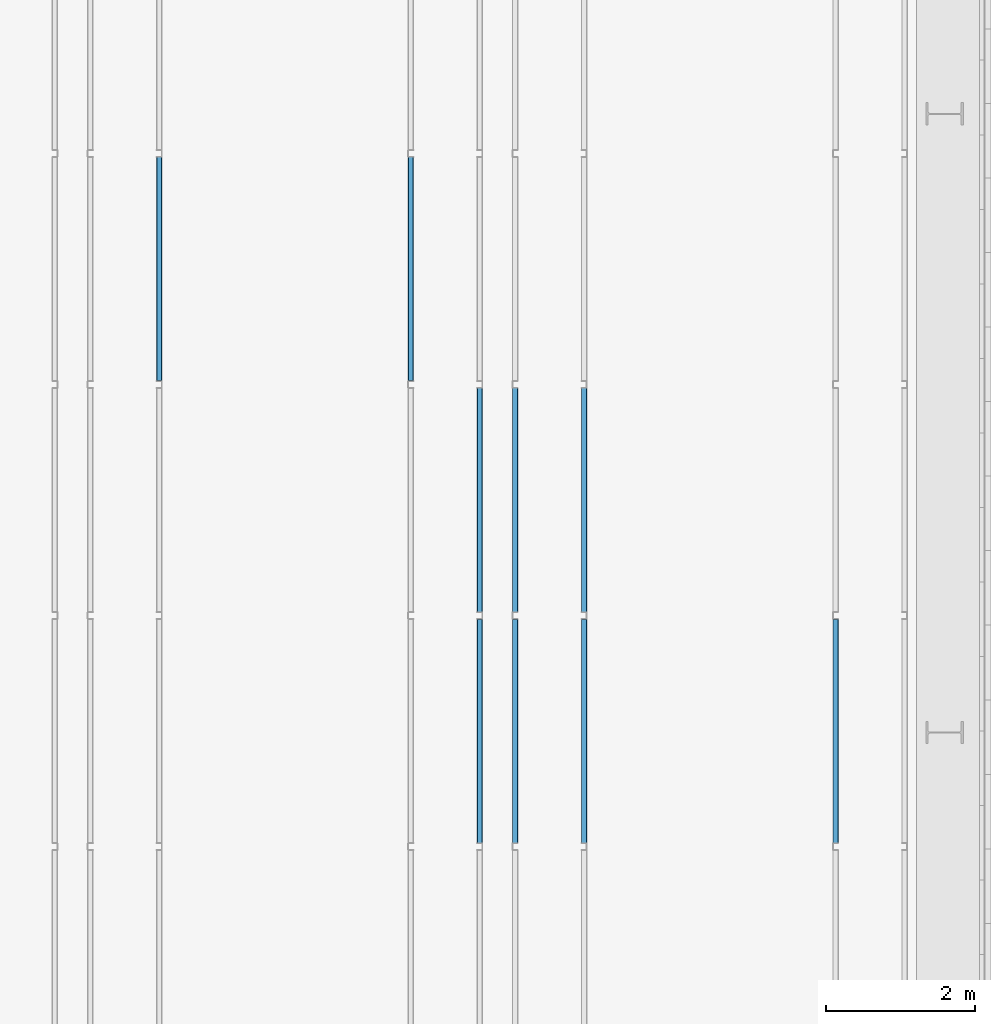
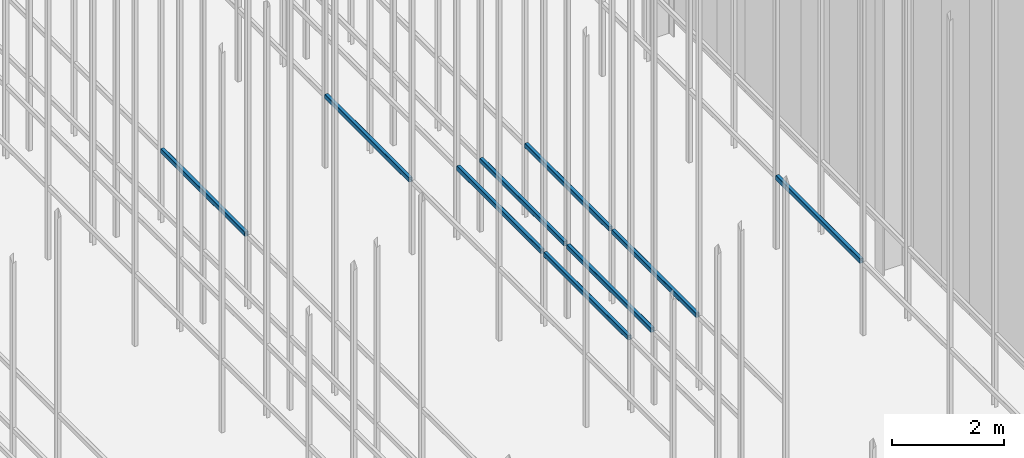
# One storey, part 149 of 302: 9 beams.
"""IFC2X3 building model written with IfcOpenShell, lengths in metres."""

from ifc_helpers import new_model, entity, si_unit, converted_unit, derived_unit, direction, frame, frame_2d, origin, place, context, subcontext, project, spatial, polyline, circle_curve, parameter, trimmed, segment, composite_curve, outline, extrude, material, type_object, element, save


model = new_model("IFC2X3")

# Units and contexts
model_context = context("Model", 3, precision=1e-05, world=origin(), true_north=direction((6.12303176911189e-17, 1.0)))
body_context = subcontext(model_context, "Body", "Model", "MODEL_VIEW")
ifc_project = project(units=[si_unit("LENGTHUNIT", "METRE"), si_unit("AREAUNIT", "SQUARE_METRE"), si_unit("VOLUMEUNIT", "CUBIC_METRE"), converted_unit("PLANEANGLEUNIT", "DEGREE", entity("IfcRatioMeasure", 0.0174532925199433), si_unit("PLANEANGLEUNIT", "RADIAN"), dimensions=[0, 0, 0, 0, 0, 0, 0]), si_unit("MASSUNIT", "GRAM", prefix="KILO"), derived_unit("MASSDENSITYUNIT", [(si_unit("MASSUNIT", "GRAM", prefix="KILO"), 1), (si_unit("LENGTHUNIT", "METRE"), -3)]), derived_unit("MOMENTOFINERTIAUNIT", [(si_unit("LENGTHUNIT", "METRE"), 4)]), si_unit("TIMEUNIT", "SECOND"), si_unit("FREQUENCYUNIT", "HERTZ"), si_unit("THERMODYNAMICTEMPERATUREUNIT", "DEGREE_CELSIUS"), derived_unit("THERMALTRANSMITTANCEUNIT", [(si_unit("MASSUNIT", "GRAM", prefix="KILO"), 1), (si_unit("THERMODYNAMICTEMPERATUREUNIT", "KELVIN"), -1), (si_unit("TIMEUNIT", "SECOND"), -3)]), derived_unit("VOLUMETRICFLOWRATEUNIT", [(si_unit("LENGTHUNIT", "METRE"), 3), (si_unit("TIMEUNIT", "SECOND"), -1)]), si_unit("ELECTRICCURRENTUNIT", "AMPERE"), si_unit("ELECTRICVOLTAGEUNIT", "VOLT"), si_unit("POWERUNIT", "WATT"), si_unit("FORCEUNIT", "NEWTON", prefix="KILO"), si_unit("ILLUMINANCEUNIT", "LUX"), si_unit("LUMINOUSFLUXUNIT", "LUMEN"), si_unit("LUMINOUSINTENSITYUNIT", "CANDELA"), derived_unit("USERDEFINED", [(si_unit("MASSUNIT", "GRAM", prefix="KILO"), -1), (si_unit("LENGTHUNIT", "METRE"), -2), (si_unit("TIMEUNIT", "SECOND"), 3), (si_unit("LUMINOUSFLUXUNIT", "LUMEN"), 1)]), derived_unit("LINEARVELOCITYUNIT", [(si_unit("LENGTHUNIT", "METRE"), 1), (si_unit("TIMEUNIT", "SECOND"), -1)]), si_unit("PRESSUREUNIT", "PASCAL"), derived_unit("USERDEFINED", [(si_unit("LENGTHUNIT", "METRE"), -2), (si_unit("MASSUNIT", "GRAM", prefix="KILO"), 1), (si_unit("TIMEUNIT", "SECOND"), -2)]), derived_unit("LINEARFORCEUNIT", [(si_unit("MASSUNIT", "GRAM", prefix="KILO"), 1), (si_unit("LENGTHUNIT", "METRE"), 1), (si_unit("TIMEUNIT", "SECOND"), -2), (si_unit("LENGTHUNIT", "METRE"), -1)]), derived_unit("PLANARFORCEUNIT", [(si_unit("MASSUNIT", "GRAM", prefix="KILO"), 1), (si_unit("LENGTHUNIT", "METRE"), 1), (si_unit("TIMEUNIT", "SECOND"), -2), (si_unit("LENGTHUNIT", "METRE"), -2)])], contexts=[model_context])

# Site, building, storey
site_placement = place(None, origin())
site = spatial("IfcSite", under=ifc_project, at=site_placement, Name="Default", CompositionType="ELEMENT")
building_placement = place(site_placement, origin())
building = spatial("IfcBuilding", under=site, at=building_placement, CompositionType="ELEMENT")
storey_placement = place(building_placement, frame((0.0, 0.0, -1.3)))
storey = spatial("IfcBuildingStorey", under=building, at=storey_placement, Name="00_EG", CompositionType="ELEMENT", Elevation=-1.3)

# Beams
ifc_material = material(Name="Metall - Baustahl S235 blau")
beam_type = type_object("IfcBeamType", Name="RHS Träger (EN 10219-2):RHS 100 x 75 x 5", PredefinedType="NOTDEFINED")
beam_1_placement = place(storey_placement, frame((-184.165111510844, 30.248088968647, 2.885), z_axis=(0.0, 0.0, 1.0), x_axis=(0.0, 1.0, 0.0)))
element("IfcBeam", 1, at=beam_1_placement, inside=storey, type_object=beam_type, material=ifc_material, Name="RHS Träger (EN 10219-2):RHS 100 x 75 x 5", ObjectType="RHS Träger (EN 10219-2):RHS 100 x 75 x 5", context=body_context, shape_type="SweptSolid", body=[
    extrude(outline(composite_curve([segment(polyline([(-0.0399999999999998, -0.0374999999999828), (0.0400000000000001, -0.0374999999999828)]), True, "CONTINUOUS"), segment(trimmed(circle_curve(frame_2d((0.0399999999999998, -0.0274999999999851), x_axis=(0.0, 1.0)), 0.01), [parameter(180.0)], [parameter(270.0)], True, "PARAMETER"), True, "CONTINUOUS"), segment(polyline([(0.05, -0.0274999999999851), (0.05, 0.0274999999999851)]), True, "CONTINUOUS"), segment(trimmed(circle_curve(frame_2d((0.0399999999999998, 0.0274999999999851), x_axis=(0.0, 1.0)), 0.01), [parameter(270.0)], [parameter(4.07110999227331e-13)], True, "PARAMETER"), True, "CONTINUOUS"), segment(polyline([(0.0400000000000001, 0.0375000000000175), (-0.0399999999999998, 0.0375000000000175)]), True, "CONTINUOUS"), segment(trimmed(circle_curve(frame_2d((-0.0400000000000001, 0.0274999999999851), x_axis=(0.0, 1.0)), 0.01), [parameter(360.0)], [parameter(90.0000000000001)], True, "PARAMETER"), True, "CONTINUOUS"), segment(polyline([(-0.05, 0.0274999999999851), (-0.05, -0.0274999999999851)]), True, "CONTINUOUS"), segment(trimmed(circle_curve(frame_2d((-0.0400000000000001, -0.0274999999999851), x_axis=(0.0, 1.0)), 0.01), [parameter(90.0000000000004)], [parameter(180.0)], True, "PARAMETER"), True, "CONTINUOUS")], self_intersect=False), holes=[composite_curve([segment(trimmed(circle_curve(frame_2d((-0.0400000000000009, 0.0274999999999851), x_axis=(0.0, 1.0)), 0.005), [parameter(360.0)], [parameter(89.9999999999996)], True, "PARAMETER"), False, "CONTINUOUS"), segment(polyline([(-0.0400000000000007, 0.0325000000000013), (0.0399999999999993, 0.0325000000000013)]), True, "CONTINUOUS"), segment(trimmed(circle_curve(frame_2d((0.039999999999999, 0.0274999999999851), x_axis=(0.0, 1.0)), 0.005), [parameter(270.0)], [parameter(0.0)], True, "PARAMETER"), False, "CONTINUOUS"), segment(polyline([(0.0449999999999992, 0.0274999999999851), (0.0449999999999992, -0.0274999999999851)]), True, "CONTINUOUS"), segment(trimmed(circle_curve(frame_2d((0.039999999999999, -0.0274999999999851), x_axis=(0.0, 1.0)), 0.005), [parameter(180.0)], [parameter(269.999999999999)], True, "PARAMETER"), False, "CONTINUOUS"), segment(polyline([(0.0399999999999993, -0.0325000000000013), (-0.0400000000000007, -0.0325000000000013)]), True, "CONTINUOUS"), segment(trimmed(circle_curve(frame_2d((-0.0400000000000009, -0.0274999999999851), x_axis=(0.0, 1.0)), 0.005), [parameter(90.0000000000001)], [parameter(180.0)], True, "PARAMETER"), False, "CONTINUOUS"), segment(polyline([(-0.0450000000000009, -0.0274999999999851), (-0.0450000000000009, 0.0274999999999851)]), True, "CONTINUOUS")], self_intersect=False)]), frame((9.99999999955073e-05, -0.0375000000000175, -0.0500000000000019), z_axis=(1.0, 0.0, 0.0), x_axis=(0.0, 0.0, -1.0)), (0.0, 0.0, 1.0), 2.9998),
])
beam_2_placement = place(storey_placement, frame((-183.615111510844, 30.248088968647, 2.885), z_axis=(0.0, 0.0, 1.0), x_axis=(0.0, 1.0, 0.0)))
element("IfcBeam", 2, at=beam_2_placement, inside=storey, type_object=beam_type, material=ifc_material, Name="RHS Träger (EN 10219-2):RHS 100 x 75 x 5", ObjectType="RHS Träger (EN 10219-2):RHS 100 x 75 x 5", context=body_context, shape_type="SweptSolid", body=[
    extrude(outline(composite_curve([segment(trimmed(circle_curve(frame_2d((-0.0274999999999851, -0.0400000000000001), x_axis=(1.0, 0.0)), 0.01), [parameter(180.0)], [parameter(270.0)], True, "PARAMETER"), True, "CONTINUOUS"), segment(polyline([(-0.0274999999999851, -0.05), (0.0274999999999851, -0.05)]), True, "CONTINUOUS"), segment(trimmed(circle_curve(frame_2d((0.0274999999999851, -0.0400000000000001), x_axis=(1.0, 0.0)), 0.01), [parameter(270.0)], [parameter(5.08888749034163e-14)], True, "PARAMETER"), True, "CONTINUOUS"), segment(polyline([(0.0375000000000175, -0.0399999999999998), (0.0375000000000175, 0.0400000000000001)]), True, "CONTINUOUS"), segment(trimmed(circle_curve(frame_2d((0.0274999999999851, 0.0399999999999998), x_axis=(1.0, 0.0)), 0.01), [parameter(360.0)], [parameter(89.9999999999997)], True, "PARAMETER"), True, "CONTINUOUS"), segment(polyline([(0.0274999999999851, 0.05), (-0.0274999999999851, 0.05)]), True, "CONTINUOUS"), segment(trimmed(circle_curve(frame_2d((-0.0274999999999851, 0.0399999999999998), x_axis=(1.0, 0.0)), 0.01), [parameter(90.0000000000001)], [parameter(180.0)], True, "PARAMETER"), True, "CONTINUOUS"), segment(polyline([(-0.0374999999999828, 0.0400000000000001), (-0.0374999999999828, -0.0399999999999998)]), True, "CONTINUOUS")], self_intersect=False), holes=[composite_curve([segment(polyline([(0.0274999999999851, -0.0450000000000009), (-0.0274999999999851, -0.0450000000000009)]), True, "CONTINUOUS"), segment(trimmed(circle_curve(frame_2d((-0.0274999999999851, -0.0400000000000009), x_axis=(1.0, 0.0)), 0.005), [parameter(180.0)], [parameter(270.0)], True, "PARAMETER"), False, "CONTINUOUS"), segment(polyline([(-0.0325000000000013, -0.0400000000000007), (-0.0325000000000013, 0.0399999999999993)]), True, "CONTINUOUS"), segment(trimmed(circle_curve(frame_2d((-0.0274999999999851, 0.039999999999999), x_axis=(1.0, 0.0)), 0.005), [parameter(90.0000000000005)], [parameter(180.0)], True, "PARAMETER"), False, "CONTINUOUS"), segment(polyline([(-0.0274999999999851, 0.0449999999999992), (0.0274999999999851, 0.0449999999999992)]), True, "CONTINUOUS"), segment(trimmed(circle_curve(frame_2d((0.0274999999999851, 0.039999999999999), x_axis=(1.0, 0.0)), 0.005), [parameter(0.0)], [parameter(90.0000000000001)], True, "PARAMETER"), False, "CONTINUOUS"), segment(polyline([(0.0325000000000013, 0.0399999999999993), (0.0325000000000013, -0.0400000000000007)]), True, "CONTINUOUS"), segment(trimmed(circle_curve(frame_2d((0.0274999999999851, -0.0400000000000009), x_axis=(1.0, 0.0)), 0.005), [parameter(270.0)], [parameter(4.07110999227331e-13)], True, "PARAMETER"), False, "CONTINUOUS")], self_intersect=False)]), frame((9.99999999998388e-05, 0.0375000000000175, -0.0500000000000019), z_axis=(1.0, 0.0, 0.0), x_axis=(0.0, -1.0, 0.0)), (0.0, 0.0, 1.0), 2.9998),
])
beam_3_placement = place(storey_placement, frame((-182.765111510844, 30.248088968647, 2.885), z_axis=(0.0, 0.0, 1.0), x_axis=(0.0, 1.0, 0.0)))
element("IfcBeam", 3, at=beam_3_placement, inside=storey, type_object=beam_type, material=ifc_material, Name="RHS Träger (EN 10219-2):RHS 100 x 75 x 5", ObjectType="RHS Träger (EN 10219-2):RHS 100 x 75 x 5", context=body_context, shape_type="SweptSolid", body=[
    extrude(outline(composite_curve([segment(polyline([(-0.0399999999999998, -0.0374999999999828), (0.0400000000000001, -0.0374999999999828)]), True, "CONTINUOUS"), segment(trimmed(circle_curve(frame_2d((0.0399999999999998, -0.0274999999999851), x_axis=(0.0, 1.0)), 0.01), [parameter(180.0)], [parameter(270.0)], True, "PARAMETER"), True, "CONTINUOUS"), segment(polyline([(0.05, -0.0274999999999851), (0.05, 0.0274999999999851)]), True, "CONTINUOUS"), segment(trimmed(circle_curve(frame_2d((0.0399999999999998, 0.0274999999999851), x_axis=(0.0, 1.0)), 0.01), [parameter(270.0)], [parameter(4.07110999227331e-13)], True, "PARAMETER"), True, "CONTINUOUS"), segment(polyline([(0.0400000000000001, 0.0375000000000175), (-0.0399999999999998, 0.0375000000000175)]), True, "CONTINUOUS"), segment(trimmed(circle_curve(frame_2d((-0.0400000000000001, 0.0274999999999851), x_axis=(0.0, 1.0)), 0.01), [parameter(360.0)], [parameter(90.0000000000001)], True, "PARAMETER"), True, "CONTINUOUS"), segment(polyline([(-0.05, 0.0274999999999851), (-0.05, -0.0274999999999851)]), True, "CONTINUOUS"), segment(trimmed(circle_curve(frame_2d((-0.0400000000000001, -0.0274999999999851), x_axis=(0.0, 1.0)), 0.01), [parameter(90.0000000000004)], [parameter(180.0)], True, "PARAMETER"), True, "CONTINUOUS")], self_intersect=False), holes=[composite_curve([segment(trimmed(circle_curve(frame_2d((-0.0400000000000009, 0.0274999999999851), x_axis=(0.0, 1.0)), 0.005), [parameter(360.0)], [parameter(89.9999999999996)], True, "PARAMETER"), False, "CONTINUOUS"), segment(polyline([(-0.0400000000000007, 0.0325000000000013), (0.0399999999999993, 0.0325000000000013)]), True, "CONTINUOUS"), segment(trimmed(circle_curve(frame_2d((0.039999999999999, 0.0274999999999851), x_axis=(0.0, 1.0)), 0.005), [parameter(270.0)], [parameter(0.0)], True, "PARAMETER"), False, "CONTINUOUS"), segment(polyline([(0.0449999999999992, 0.0274999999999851), (0.0449999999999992, -0.0274999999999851)]), True, "CONTINUOUS"), segment(trimmed(circle_curve(frame_2d((0.039999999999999, -0.0274999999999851), x_axis=(0.0, 1.0)), 0.005), [parameter(180.0)], [parameter(269.999999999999)], True, "PARAMETER"), False, "CONTINUOUS"), segment(polyline([(0.0399999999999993, -0.0325000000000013), (-0.0400000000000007, -0.0325000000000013)]), True, "CONTINUOUS"), segment(trimmed(circle_curve(frame_2d((-0.0400000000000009, -0.0274999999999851), x_axis=(0.0, 1.0)), 0.005), [parameter(90.0000000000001)], [parameter(180.0)], True, "PARAMETER"), False, "CONTINUOUS"), segment(polyline([(-0.0450000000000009, -0.0274999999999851), (-0.0450000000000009, 0.0274999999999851)]), True, "CONTINUOUS")], self_intersect=False)]), frame((9.99999999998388e-05, -0.0375000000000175, -0.0500000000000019), z_axis=(1.0, 0.0, 0.0), x_axis=(0.0, 0.0, -1.0)), (0.0, 0.0, 1.0), 2.9998),
])
beam_4_placement = place(storey_placement, frame((-179.315111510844, 30.248088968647, 2.885), z_axis=(0.0, 0.0, 1.0), x_axis=(0.0, 1.0, 0.0)))
element("IfcBeam", 4, at=beam_4_placement, inside=storey, type_object=beam_type, material=ifc_material, Name="RHS Träger (EN 10219-2):RHS 100 x 75 x 5", ObjectType="RHS Träger (EN 10219-2):RHS 100 x 75 x 5", context=body_context, shape_type="SweptSolid", body=[
    extrude(outline(composite_curve([segment(trimmed(circle_curve(frame_2d((-0.0274999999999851, -0.0400000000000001), x_axis=(1.0, 0.0)), 0.01), [parameter(180.0)], [parameter(270.0)], True, "PARAMETER"), True, "CONTINUOUS"), segment(polyline([(-0.0274999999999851, -0.05), (0.0274999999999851, -0.05)]), True, "CONTINUOUS"), segment(trimmed(circle_curve(frame_2d((0.0274999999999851, -0.0400000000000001), x_axis=(1.0, 0.0)), 0.01), [parameter(270.0)], [parameter(5.08888749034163e-14)], True, "PARAMETER"), True, "CONTINUOUS"), segment(polyline([(0.0375000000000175, -0.0399999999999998), (0.0375000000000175, 0.0400000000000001)]), True, "CONTINUOUS"), segment(trimmed(circle_curve(frame_2d((0.0274999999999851, 0.0399999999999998), x_axis=(1.0, 0.0)), 0.01), [parameter(360.0)], [parameter(89.9999999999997)], True, "PARAMETER"), True, "CONTINUOUS"), segment(polyline([(0.0274999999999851, 0.05), (-0.0274999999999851, 0.05)]), True, "CONTINUOUS"), segment(trimmed(circle_curve(frame_2d((-0.0274999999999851, 0.0399999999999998), x_axis=(1.0, 0.0)), 0.01), [parameter(90.0000000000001)], [parameter(180.0)], True, "PARAMETER"), True, "CONTINUOUS"), segment(polyline([(-0.0374999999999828, 0.0400000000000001), (-0.0374999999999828, -0.0399999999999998)]), True, "CONTINUOUS")], self_intersect=False), holes=[composite_curve([segment(polyline([(0.0274999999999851, -0.0450000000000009), (-0.0274999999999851, -0.0450000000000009)]), True, "CONTINUOUS"), segment(trimmed(circle_curve(frame_2d((-0.0274999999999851, -0.0400000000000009), x_axis=(1.0, 0.0)), 0.005), [parameter(180.0)], [parameter(270.0)], True, "PARAMETER"), False, "CONTINUOUS"), segment(polyline([(-0.0325000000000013, -0.0400000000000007), (-0.0325000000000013, 0.0399999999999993)]), True, "CONTINUOUS"), segment(trimmed(circle_curve(frame_2d((-0.0274999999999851, 0.039999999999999), x_axis=(1.0, 0.0)), 0.005), [parameter(90.0000000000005)], [parameter(180.0)], True, "PARAMETER"), False, "CONTINUOUS"), segment(polyline([(-0.0274999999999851, 0.0449999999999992), (0.0274999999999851, 0.0449999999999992)]), True, "CONTINUOUS"), segment(trimmed(circle_curve(frame_2d((0.0274999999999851, 0.039999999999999), x_axis=(1.0, 0.0)), 0.005), [parameter(0.0)], [parameter(90.0000000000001)], True, "PARAMETER"), False, "CONTINUOUS"), segment(polyline([(0.0325000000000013, 0.0399999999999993), (0.0325000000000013, -0.0400000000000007)]), True, "CONTINUOUS"), segment(trimmed(circle_curve(frame_2d((0.0274999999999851, -0.0400000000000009), x_axis=(1.0, 0.0)), 0.005), [parameter(270.0)], [parameter(4.07110999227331e-13)], True, "PARAMETER"), False, "CONTINUOUS")], self_intersect=False)]), frame((0.00010000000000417, 0.0375000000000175, -0.0500000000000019), z_axis=(1.0, 0.0, 0.0), x_axis=(0.0, -1.0, 0.0)), (0.0, 0.0, 1.0), 2.9998),
])
beam_5_placement = place(storey_placement, frame((-184.165111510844, 33.348088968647, 2.885), z_axis=(0.0, 0.0, 1.0), x_axis=(0.0, 1.0, 0.0)))
element("IfcBeam", 5, at=beam_5_placement, inside=storey, type_object=beam_type, material=ifc_material, Name="RHS Träger (EN 10219-2):RHS 100 x 75 x 5", ObjectType="RHS Träger (EN 10219-2):RHS 100 x 75 x 5", context=body_context, shape_type="SweptSolid", body=[
    extrude(outline(composite_curve([segment(polyline([(-0.0399999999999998, -0.0374999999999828), (0.0400000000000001, -0.0374999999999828)]), True, "CONTINUOUS"), segment(trimmed(circle_curve(frame_2d((0.0399999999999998, -0.0274999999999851), x_axis=(0.0, 1.0)), 0.01), [parameter(180.0)], [parameter(270.0)], True, "PARAMETER"), True, "CONTINUOUS"), segment(polyline([(0.05, -0.0274999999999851), (0.05, 0.0274999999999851)]), True, "CONTINUOUS"), segment(trimmed(circle_curve(frame_2d((0.0399999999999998, 0.0274999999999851), x_axis=(0.0, 1.0)), 0.01), [parameter(270.0)], [parameter(4.07110999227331e-13)], True, "PARAMETER"), True, "CONTINUOUS"), segment(polyline([(0.0400000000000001, 0.0375000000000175), (-0.0399999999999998, 0.0375000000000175)]), True, "CONTINUOUS"), segment(trimmed(circle_curve(frame_2d((-0.0400000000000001, 0.0274999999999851), x_axis=(0.0, 1.0)), 0.01), [parameter(360.0)], [parameter(90.0000000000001)], True, "PARAMETER"), True, "CONTINUOUS"), segment(polyline([(-0.05, 0.0274999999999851), (-0.05, -0.0274999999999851)]), True, "CONTINUOUS"), segment(trimmed(circle_curve(frame_2d((-0.0400000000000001, -0.0274999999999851), x_axis=(0.0, 1.0)), 0.01), [parameter(90.0000000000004)], [parameter(180.0)], True, "PARAMETER"), True, "CONTINUOUS")], self_intersect=False), holes=[composite_curve([segment(trimmed(circle_curve(frame_2d((-0.0400000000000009, 0.0274999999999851), x_axis=(0.0, 1.0)), 0.005), [parameter(360.0)], [parameter(89.9999999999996)], True, "PARAMETER"), False, "CONTINUOUS"), segment(polyline([(-0.0400000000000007, 0.0325000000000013), (0.0399999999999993, 0.0325000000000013)]), True, "CONTINUOUS"), segment(trimmed(circle_curve(frame_2d((0.039999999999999, 0.0274999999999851), x_axis=(0.0, 1.0)), 0.005), [parameter(270.0)], [parameter(0.0)], True, "PARAMETER"), False, "CONTINUOUS"), segment(polyline([(0.0449999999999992, 0.0274999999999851), (0.0449999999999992, -0.0274999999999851)]), True, "CONTINUOUS"), segment(trimmed(circle_curve(frame_2d((0.039999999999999, -0.0274999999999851), x_axis=(0.0, 1.0)), 0.005), [parameter(180.0)], [parameter(269.999999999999)], True, "PARAMETER"), False, "CONTINUOUS"), segment(polyline([(0.0399999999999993, -0.0325000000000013), (-0.0400000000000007, -0.0325000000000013)]), True, "CONTINUOUS"), segment(trimmed(circle_curve(frame_2d((-0.0400000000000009, -0.0274999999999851), x_axis=(0.0, 1.0)), 0.005), [parameter(90.0000000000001)], [parameter(180.0)], True, "PARAMETER"), False, "CONTINUOUS"), segment(polyline([(-0.0450000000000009, -0.0274999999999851), (-0.0450000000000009, 0.0274999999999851)]), True, "CONTINUOUS")], self_intersect=False)]), frame((9.99999999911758e-05, -0.0375000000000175, -0.0500000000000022), z_axis=(1.0, 0.0, 0.0), x_axis=(0.0, 0.0, -1.0)), (0.0, 0.0, 1.0), 2.9998),
])
beam_6_placement = place(storey_placement, frame((-183.615111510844, 33.348088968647, 2.885), z_axis=(0.0, 0.0, 1.0), x_axis=(0.0, 1.0, 0.0)))
element("IfcBeam", 6, at=beam_6_placement, inside=storey, type_object=beam_type, material=ifc_material, Name="RHS Träger (EN 10219-2):RHS 100 x 75 x 5", ObjectType="RHS Träger (EN 10219-2):RHS 100 x 75 x 5", context=body_context, shape_type="SweptSolid", body=[
    extrude(outline(composite_curve([segment(trimmed(circle_curve(frame_2d((-0.0274999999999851, -0.0400000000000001), x_axis=(1.0, 0.0)), 0.01), [parameter(180.0)], [parameter(270.0)], True, "PARAMETER"), True, "CONTINUOUS"), segment(polyline([(-0.0274999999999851, -0.05), (0.0274999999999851, -0.05)]), True, "CONTINUOUS"), segment(trimmed(circle_curve(frame_2d((0.0274999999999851, -0.0400000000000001), x_axis=(1.0, 0.0)), 0.01), [parameter(270.0)], [parameter(5.08888749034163e-14)], True, "PARAMETER"), True, "CONTINUOUS"), segment(polyline([(0.0375000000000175, -0.0399999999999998), (0.0375000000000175, 0.0400000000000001)]), True, "CONTINUOUS"), segment(trimmed(circle_curve(frame_2d((0.0274999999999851, 0.0399999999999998), x_axis=(1.0, 0.0)), 0.01), [parameter(360.0)], [parameter(89.9999999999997)], True, "PARAMETER"), True, "CONTINUOUS"), segment(polyline([(0.0274999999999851, 0.05), (-0.0274999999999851, 0.05)]), True, "CONTINUOUS"), segment(trimmed(circle_curve(frame_2d((-0.0274999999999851, 0.0399999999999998), x_axis=(1.0, 0.0)), 0.01), [parameter(90.0000000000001)], [parameter(180.0)], True, "PARAMETER"), True, "CONTINUOUS"), segment(polyline([(-0.0374999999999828, 0.0400000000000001), (-0.0374999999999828, -0.0399999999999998)]), True, "CONTINUOUS")], self_intersect=False), holes=[composite_curve([segment(polyline([(0.0274999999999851, -0.0450000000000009), (-0.0274999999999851, -0.0450000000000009)]), True, "CONTINUOUS"), segment(trimmed(circle_curve(frame_2d((-0.0274999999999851, -0.0400000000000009), x_axis=(1.0, 0.0)), 0.005), [parameter(180.0)], [parameter(270.0)], True, "PARAMETER"), False, "CONTINUOUS"), segment(polyline([(-0.0325000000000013, -0.0400000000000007), (-0.0325000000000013, 0.0399999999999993)]), True, "CONTINUOUS"), segment(trimmed(circle_curve(frame_2d((-0.0274999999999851, 0.039999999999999), x_axis=(1.0, 0.0)), 0.005), [parameter(90.0000000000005)], [parameter(180.0)], True, "PARAMETER"), False, "CONTINUOUS"), segment(polyline([(-0.0274999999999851, 0.0449999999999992), (0.0274999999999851, 0.0449999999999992)]), True, "CONTINUOUS"), segment(trimmed(circle_curve(frame_2d((0.0274999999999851, 0.039999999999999), x_axis=(1.0, 0.0)), 0.005), [parameter(0.0)], [parameter(90.0000000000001)], True, "PARAMETER"), False, "CONTINUOUS"), segment(polyline([(0.0325000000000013, 0.0399999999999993), (0.0325000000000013, -0.0400000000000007)]), True, "CONTINUOUS"), segment(trimmed(circle_curve(frame_2d((0.0274999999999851, -0.0400000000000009), x_axis=(1.0, 0.0)), 0.005), [parameter(270.0)], [parameter(4.07110999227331e-13)], True, "PARAMETER"), False, "CONTINUOUS")], self_intersect=False)]), frame((9.99999999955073e-05, 0.0375000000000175, -0.0500000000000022), z_axis=(1.0, 0.0, 0.0), x_axis=(0.0, -1.0, 0.0)), (0.0, 0.0, 1.0), 2.9998),
])
beam_7_placement = place(storey_placement, frame((-182.765111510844, 33.348088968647, 2.885), z_axis=(0.0, 0.0, 1.0), x_axis=(0.0, 1.0, 0.0)))
element("IfcBeam", 7, at=beam_7_placement, inside=storey, type_object=beam_type, material=ifc_material, Name="RHS Träger (EN 10219-2):RHS 100 x 75 x 5", ObjectType="RHS Träger (EN 10219-2):RHS 100 x 75 x 5", context=body_context, shape_type="SweptSolid", body=[
    extrude(outline(composite_curve([segment(polyline([(-0.0399999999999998, -0.0374999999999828), (0.0400000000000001, -0.0374999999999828)]), True, "CONTINUOUS"), segment(trimmed(circle_curve(frame_2d((0.0399999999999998, -0.0274999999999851), x_axis=(0.0, 1.0)), 0.01), [parameter(180.0)], [parameter(270.0)], True, "PARAMETER"), True, "CONTINUOUS"), segment(polyline([(0.05, -0.0274999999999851), (0.05, 0.0274999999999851)]), True, "CONTINUOUS"), segment(trimmed(circle_curve(frame_2d((0.0399999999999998, 0.0274999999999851), x_axis=(0.0, 1.0)), 0.01), [parameter(270.0)], [parameter(4.07110999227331e-13)], True, "PARAMETER"), True, "CONTINUOUS"), segment(polyline([(0.0400000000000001, 0.0375000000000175), (-0.0399999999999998, 0.0375000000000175)]), True, "CONTINUOUS"), segment(trimmed(circle_curve(frame_2d((-0.0400000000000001, 0.0274999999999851), x_axis=(0.0, 1.0)), 0.01), [parameter(360.0)], [parameter(90.0000000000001)], True, "PARAMETER"), True, "CONTINUOUS"), segment(polyline([(-0.05, 0.0274999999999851), (-0.05, -0.0274999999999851)]), True, "CONTINUOUS"), segment(trimmed(circle_curve(frame_2d((-0.0400000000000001, -0.0274999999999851), x_axis=(0.0, 1.0)), 0.01), [parameter(90.0000000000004)], [parameter(180.0)], True, "PARAMETER"), True, "CONTINUOUS")], self_intersect=False), holes=[composite_curve([segment(trimmed(circle_curve(frame_2d((-0.0400000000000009, 0.0274999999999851), x_axis=(0.0, 1.0)), 0.005), [parameter(360.0)], [parameter(89.9999999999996)], True, "PARAMETER"), False, "CONTINUOUS"), segment(polyline([(-0.0400000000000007, 0.0325000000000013), (0.0399999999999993, 0.0325000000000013)]), True, "CONTINUOUS"), segment(trimmed(circle_curve(frame_2d((0.039999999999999, 0.0274999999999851), x_axis=(0.0, 1.0)), 0.005), [parameter(270.0)], [parameter(0.0)], True, "PARAMETER"), False, "CONTINUOUS"), segment(polyline([(0.0449999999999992, 0.0274999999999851), (0.0449999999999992, -0.0274999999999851)]), True, "CONTINUOUS"), segment(trimmed(circle_curve(frame_2d((0.039999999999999, -0.0274999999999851), x_axis=(0.0, 1.0)), 0.005), [parameter(180.0)], [parameter(269.999999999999)], True, "PARAMETER"), False, "CONTINUOUS"), segment(polyline([(0.0399999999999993, -0.0325000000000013), (-0.0400000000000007, -0.0325000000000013)]), True, "CONTINUOUS"), segment(trimmed(circle_curve(frame_2d((-0.0400000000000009, -0.0274999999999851), x_axis=(0.0, 1.0)), 0.005), [parameter(90.0000000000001)], [parameter(180.0)], True, "PARAMETER"), False, "CONTINUOUS"), segment(polyline([(-0.0450000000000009, -0.0274999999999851), (-0.0450000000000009, 0.0274999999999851)]), True, "CONTINUOUS")], self_intersect=False)]), frame((9.99999999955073e-05, -0.0375000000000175, -0.0500000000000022), z_axis=(1.0, 0.0, 0.0), x_axis=(0.0, 0.0, -1.0)), (0.0, 0.0, 1.0), 2.9998),
])
beam_8_placement = place(storey_placement, frame((-188.465111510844, 36.448088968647, 2.885), z_axis=(0.0, 0.0, 1.0), x_axis=(0.0, 1.0, 0.0)))
element("IfcBeam", 8, at=beam_8_placement, inside=storey, type_object=beam_type, material=ifc_material, Name="RHS Träger (EN 10219-2):RHS 100 x 75 x 5", ObjectType="RHS Träger (EN 10219-2):RHS 100 x 75 x 5", context=body_context, shape_type="SweptSolid", body=[
    extrude(outline(composite_curve([segment(polyline([(-0.0399999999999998, -0.0374999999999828), (0.0400000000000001, -0.0374999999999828)]), True, "CONTINUOUS"), segment(trimmed(circle_curve(frame_2d((0.0399999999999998, -0.0274999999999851), x_axis=(0.0, 1.0)), 0.01), [parameter(180.0)], [parameter(270.0)], True, "PARAMETER"), True, "CONTINUOUS"), segment(polyline([(0.05, -0.0274999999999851), (0.05, 0.0274999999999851)]), True, "CONTINUOUS"), segment(trimmed(circle_curve(frame_2d((0.0399999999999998, 0.0274999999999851), x_axis=(0.0, 1.0)), 0.01), [parameter(270.0)], [parameter(4.07110999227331e-13)], True, "PARAMETER"), True, "CONTINUOUS"), segment(polyline([(0.0400000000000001, 0.0375000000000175), (-0.0399999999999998, 0.0375000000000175)]), True, "CONTINUOUS"), segment(trimmed(circle_curve(frame_2d((-0.0400000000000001, 0.0274999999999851), x_axis=(0.0, 1.0)), 0.01), [parameter(360.0)], [parameter(90.0000000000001)], True, "PARAMETER"), True, "CONTINUOUS"), segment(polyline([(-0.05, 0.0274999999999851), (-0.05, -0.0274999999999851)]), True, "CONTINUOUS"), segment(trimmed(circle_curve(frame_2d((-0.0400000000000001, -0.0274999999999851), x_axis=(0.0, 1.0)), 0.01), [parameter(90.0000000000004)], [parameter(180.0)], True, "PARAMETER"), True, "CONTINUOUS")], self_intersect=False), holes=[composite_curve([segment(trimmed(circle_curve(frame_2d((-0.0400000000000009, 0.0274999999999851), x_axis=(0.0, 1.0)), 0.005), [parameter(360.0)], [parameter(89.9999999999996)], True, "PARAMETER"), False, "CONTINUOUS"), segment(polyline([(-0.0400000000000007, 0.0325000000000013), (0.0399999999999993, 0.0325000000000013)]), True, "CONTINUOUS"), segment(trimmed(circle_curve(frame_2d((0.039999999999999, 0.0274999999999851), x_axis=(0.0, 1.0)), 0.005), [parameter(270.0)], [parameter(0.0)], True, "PARAMETER"), False, "CONTINUOUS"), segment(polyline([(0.0449999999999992, 0.0274999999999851), (0.0449999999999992, -0.0274999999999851)]), True, "CONTINUOUS"), segment(trimmed(circle_curve(frame_2d((0.039999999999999, -0.0274999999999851), x_axis=(0.0, 1.0)), 0.005), [parameter(180.0)], [parameter(269.999999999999)], True, "PARAMETER"), False, "CONTINUOUS"), segment(polyline([(0.0399999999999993, -0.0325000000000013), (-0.0400000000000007, -0.0325000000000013)]), True, "CONTINUOUS"), segment(trimmed(circle_curve(frame_2d((-0.0400000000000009, -0.0274999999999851), x_axis=(0.0, 1.0)), 0.005), [parameter(90.0000000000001)], [parameter(180.0)], True, "PARAMETER"), False, "CONTINUOUS"), segment(polyline([(-0.0450000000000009, -0.0274999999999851), (-0.0450000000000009, 0.0274999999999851)]), True, "CONTINUOUS")], self_intersect=False)]), frame((9.99999999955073e-05, -0.0375000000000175, -0.0500000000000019), z_axis=(1.0, 0.0, 0.0), x_axis=(0.0, 0.0, -1.0)), (0.0, 0.0, 1.0), 2.9998),
])
beam_9_placement = place(storey_placement, frame((-185.015111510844, 36.448088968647, 2.885), z_axis=(0.0, 0.0, 1.0), x_axis=(0.0, 1.0, 0.0)))
element("IfcBeam", 9, at=beam_9_placement, inside=storey, type_object=beam_type, material=ifc_material, Name="RHS Träger (EN 10219-2):RHS 100 x 75 x 5", ObjectType="RHS Träger (EN 10219-2):RHS 100 x 75 x 5", context=body_context, shape_type="SweptSolid", body=[
    extrude(outline(composite_curve([segment(trimmed(circle_curve(frame_2d((-0.0274999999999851, -0.0400000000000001), x_axis=(1.0, 0.0)), 0.01), [parameter(180.0)], [parameter(270.0)], True, "PARAMETER"), True, "CONTINUOUS"), segment(polyline([(-0.0274999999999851, -0.05), (0.0274999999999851, -0.05)]), True, "CONTINUOUS"), segment(trimmed(circle_curve(frame_2d((0.0274999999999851, -0.0400000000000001), x_axis=(1.0, 0.0)), 0.01), [parameter(270.0)], [parameter(5.08888749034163e-14)], True, "PARAMETER"), True, "CONTINUOUS"), segment(polyline([(0.0375000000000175, -0.0399999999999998), (0.0375000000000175, 0.0400000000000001)]), True, "CONTINUOUS"), segment(trimmed(circle_curve(frame_2d((0.0274999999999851, 0.0399999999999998), x_axis=(1.0, 0.0)), 0.01), [parameter(360.0)], [parameter(89.9999999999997)], True, "PARAMETER"), True, "CONTINUOUS"), segment(polyline([(0.0274999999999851, 0.05), (-0.0274999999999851, 0.05)]), True, "CONTINUOUS"), segment(trimmed(circle_curve(frame_2d((-0.0274999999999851, 0.0399999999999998), x_axis=(1.0, 0.0)), 0.01), [parameter(90.0000000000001)], [parameter(180.0)], True, "PARAMETER"), True, "CONTINUOUS"), segment(polyline([(-0.0374999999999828, 0.0400000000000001), (-0.0374999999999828, -0.0399999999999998)]), True, "CONTINUOUS")], self_intersect=False), holes=[composite_curve([segment(polyline([(0.0274999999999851, -0.0450000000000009), (-0.0274999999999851, -0.0450000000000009)]), True, "CONTINUOUS"), segment(trimmed(circle_curve(frame_2d((-0.0274999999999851, -0.0400000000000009), x_axis=(1.0, 0.0)), 0.005), [parameter(180.0)], [parameter(270.0)], True, "PARAMETER"), False, "CONTINUOUS"), segment(polyline([(-0.0325000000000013, -0.0400000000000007), (-0.0325000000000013, 0.0399999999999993)]), True, "CONTINUOUS"), segment(trimmed(circle_curve(frame_2d((-0.0274999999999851, 0.039999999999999), x_axis=(1.0, 0.0)), 0.005), [parameter(90.0000000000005)], [parameter(180.0)], True, "PARAMETER"), False, "CONTINUOUS"), segment(polyline([(-0.0274999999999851, 0.0449999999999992), (0.0274999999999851, 0.0449999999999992)]), True, "CONTINUOUS"), segment(trimmed(circle_curve(frame_2d((0.0274999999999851, 0.039999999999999), x_axis=(1.0, 0.0)), 0.005), [parameter(0.0)], [parameter(90.0000000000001)], True, "PARAMETER"), False, "CONTINUOUS"), segment(polyline([(0.0325000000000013, 0.0399999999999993), (0.0325000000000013, -0.0400000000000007)]), True, "CONTINUOUS"), segment(trimmed(circle_curve(frame_2d((0.0274999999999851, -0.0400000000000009), x_axis=(1.0, 0.0)), 0.005), [parameter(270.0)], [parameter(4.07110999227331e-13)], True, "PARAMETER"), False, "CONTINUOUS")], self_intersect=False)]), frame((0.00010000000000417, 0.0375000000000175, -0.0500000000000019), z_axis=(1.0, 0.0, 0.0), x_axis=(0.0, -1.0, 0.0)), (0.0, 0.0, 1.0), 2.9998),
])

save(model, "model.ifc")
